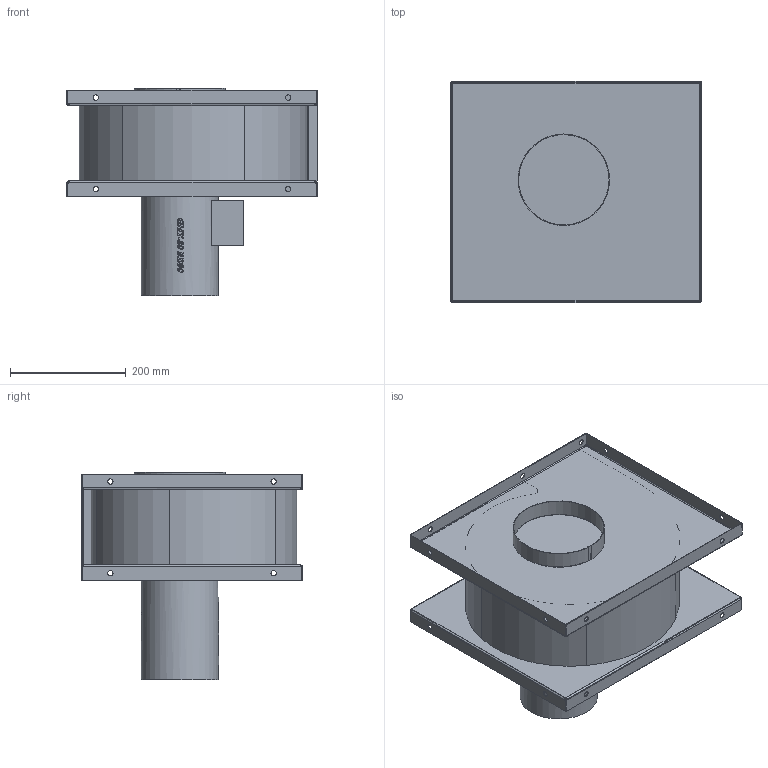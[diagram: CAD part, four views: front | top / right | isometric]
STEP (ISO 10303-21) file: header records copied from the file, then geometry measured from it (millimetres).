
FILE_DESCRIPTION(/* description */ (''),/* implementation_level */ '2;1');
FILE_NAME(/* name */ 'T:\BAZA\BAZA\Modele uproszczone\GMT\GMT_80_055S_RD90_42551555\GMT_80_055S_RD90_42551555.stp',/* time_stamp */ '2016-08-17T14:15:58+02:00',/* author */ ('tomaszm'),/* organization */ (''),/* preprocessor_version */ 'ST-DEVELOPER v16.5',/* originating_system */ 'Autodesk Inventor 2017',/* authorisation */ '');
FILE_SCHEMA (('AUTOMOTIVE_DESIGN { 1 0 10303 214 3 1 1 }'));
Length unit declared in the file: centimetre
Products named in the file (1): GMT-80-055
Bounding box: 432 x 382 x 358 mm (x, y, z)
Volume: 19148641.9 mm3; surface area: 904972 mm2
Topology: 1 solids, 5 shells, 686 faces, 1931 edges, 1281 vertices
Faces by surface type: bspline 289, plane 259, cylinder 137, cone 1
Full cylindrical faces by diameter (mm): 9.2 x18, 133.6 x1, 160 x1, 300 x1
Entity records: 27008 total; most frequent: CARTESIAN_POINT 11292, ORIENTED_EDGE 3728, DIRECTION 2271, EDGE_CURVE 1864, VERTEX_POINT 1257, LINE 901, VECTOR 901, EDGE_LOOP 771
